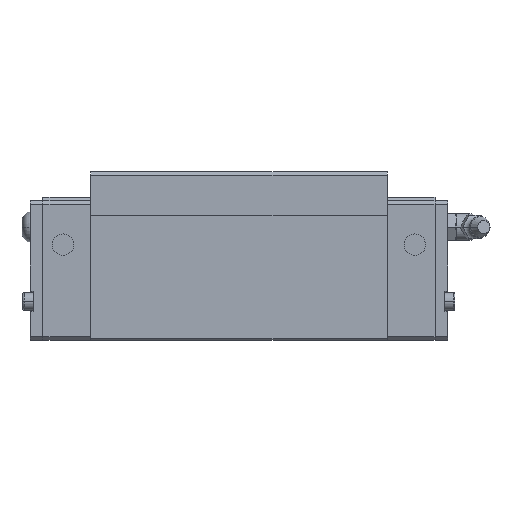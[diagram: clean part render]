
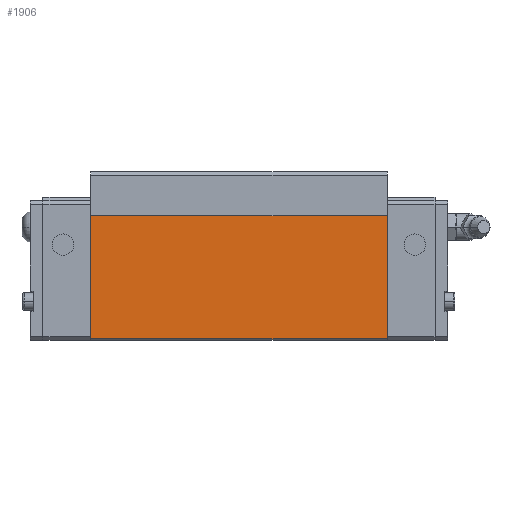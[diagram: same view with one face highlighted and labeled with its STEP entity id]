
A CAD part, left-side view. The second image highlights one B-rep face of the part: STEP entity #1906.
In plain terms, the highlighted planar face has unit normal (-1, 0, 0).
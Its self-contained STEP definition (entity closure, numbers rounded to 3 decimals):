
#1732=EDGE_CURVE('',#4244,#4350,#4814,.T.);
#1906=ADVANCED_FACE('',(#5010),#5011,.T.);
#1992=VERTEX_POINT('',#5106);
#2818=EDGE_CURVE('',#3140,#1992,#6009,.T.);
#3140=VERTEX_POINT('',#6367);
#4044=EDGE_CURVE('',#1992,#4244,#7365,.T.);
#4244=VERTEX_POINT('',#7584);
#4350=VERTEX_POINT('',#7700);
#4516=EDGE_CURVE('',#3140,#4350,#7885,.T.);
#4814=LINE('',#8295,#8296);
#5010=FACE_OUTER_BOUND('',#8571,.T.);
#5011=PLANE('',#8572);
#5106=CARTESIAN_POINT('',(-49.125,24.05,13.625));
#6009=LINE('',#10127,#10128);
#6367=CARTESIAN_POINT('',(-49.125,24.05,62.5));
#7365=LINE('',#12168,#12169);
#7584=CARTESIAN_POINT('',(-49.125,141.75,13.625));
#7700=CARTESIAN_POINT('',(-49.125,141.75,62.5));
#7885=LINE('',#12937,#12938);
#8295=CARTESIAN_POINT('',(-49.125,141.75,34.5));
#8296=VECTOR('',#13322,1.0);
#8571=EDGE_LOOP('',(#13519,#13520,#13521,#13522));
#8572=AXIS2_PLACEMENT_3D('',#13523,#13524,#13525);
#10127=CARTESIAN_POINT('',(-49.125,24.05,34.5));
#10128=VECTOR('',#14515,1.0);
#12168=CARTESIAN_POINT('',(-49.125,112.325,13.625));
#12169=VECTOR('',#16077,1.0);
#12937=CARTESIAN_POINT('',(-49.125,82.9,62.5));
#12938=VECTOR('',#16732,1.0);
#13322=DIRECTION('',(0.0,0.0,1.0));
#13519=ORIENTED_EDGE('',*,*,#1732,.F.);
#13520=ORIENTED_EDGE('',*,*,#4044,.F.);
#13521=ORIENTED_EDGE('',*,*,#2818,.F.);
#13522=ORIENTED_EDGE('',*,*,#4516,.T.);
#13523=CARTESIAN_POINT('',(-49.125,82.9,22.5));
#13524=DIRECTION('',(-1.0,0.0,0.0));
#13525=DIRECTION('',(0.0,0.0,1.0));
#14515=DIRECTION('',(-0.0,-0.0,-1.0));
#16077=DIRECTION('',(0.0,1.0,-0.0));
#16732=DIRECTION('',(0.0,1.0,0.0));
